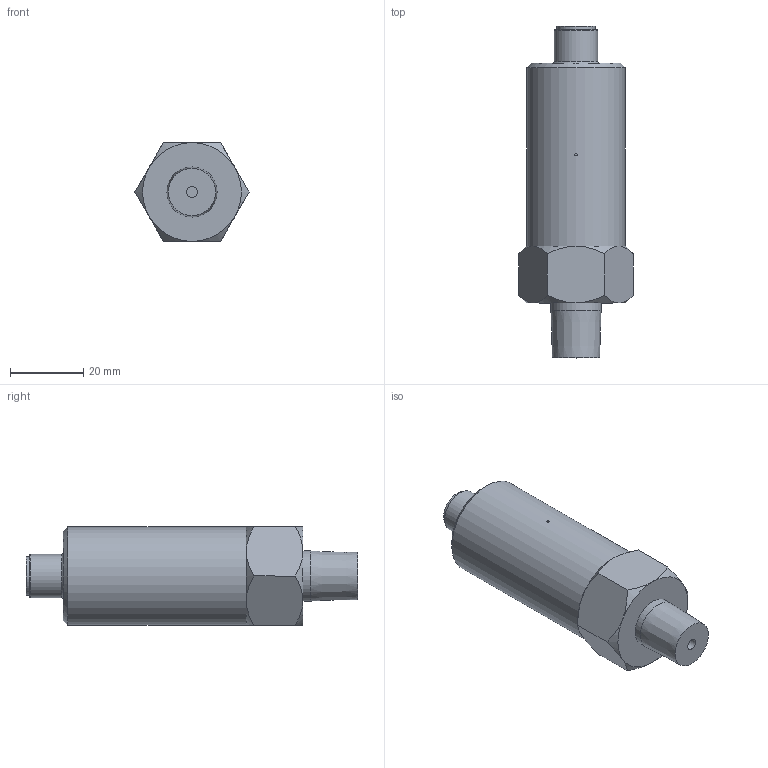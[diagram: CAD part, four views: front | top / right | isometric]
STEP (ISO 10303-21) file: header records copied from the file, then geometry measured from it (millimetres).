
FILE_DESCRIPTION(/* description */ (''),/* implementation_level */ '2;1');
FILE_NAME(/* name */ '40-000049.ipt.stp',/* time_stamp */ '2024-09-20T08:01:07-07:00',/* author */ ('phong'),/* organization */ (''),/* preprocessor_version */ 'ST-DEVELOPER v20',/* originating_system */ 'Autodesk Inventor 2024',/* authorisation */ '');
FILE_SCHEMA (('AUTOMOTIVE_DESIGN { 1 0 10303 214 3 1 1 }'));
Length unit declared in the file: inch
Products named in the file (1): 40-000049
Bounding box: 31.18 x 90.72 x 27 mm (x, y, z)
Volume: 19192.6 mm3; surface area: 17224.4 mm2
Topology: 1 solids, 4 shells, 110 faces, 221 edges, 140 vertices
Faces by surface type: plane 51, cylinder 35, cone 21, torus 3
Full cylindrical faces by diameter (mm): 0.66 x1, 0.965 x4, 1.092 x4, 1.511 x4, 3 x1, 5.1 x1, 8.382 x2, 8.966 x1, 9.347 x1, 9.487 x2, 10.389 x1, 11.887 x1, 13.716 x1, 19 x1, 20 x1, 21.907 x1, 22.314 x2, 23 x1, 23.1 x1, 23.917 x2, 25.908 x1, 26.861 x1
Entity records: 3150 total; most frequent: CARTESIAN_POINT 717, DIRECTION 508, ORIENTED_EDGE 442, EDGE_CURVE 221, AXIS2_PLACEMENT_3D 213, VERTEX_POINT 140, EDGE_LOOP 137, FACE_OUTER_BOUND 110
